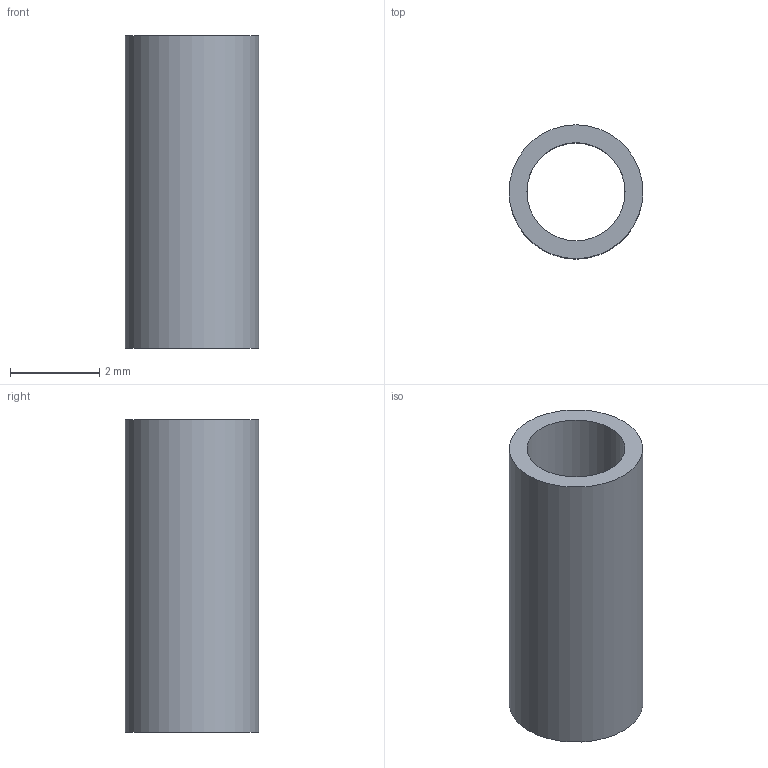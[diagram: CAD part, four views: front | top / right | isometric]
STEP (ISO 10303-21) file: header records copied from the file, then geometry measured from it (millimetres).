
FILE_DESCRIPTION(('Open CASCADE Model'),'2;1');
FILE_NAME('Open CASCADE Shape Model','2026-09-24T19:52:59',('Author'),( 'Open CASCADE'),'Open CASCADE STEP processor 7.8','Open CASCADE 7.8' ,'Unknown');
FILE_SCHEMA(('AUTOMOTIVE_DESIGN { 1 0 10303 214 1 1 1 1 }'));
Length unit declared in the file: millimetre
Products named in the file (1): Open CASCADE STEP translator 7.8 30
Bounding box: 3 x 3 x 7 mm (x, y, z)
Volume: 22.9 mm3; surface area: 120.9 mm2
Topology: 1 solids, 1 shells, 4 faces, 6 edges, 4 vertices
Faces by surface type: cylinder 2, plane 2
Full cylindrical faces by diameter (mm): 2.2 x1, 3 x1
Entity records: 186 total; most frequent: DIRECTION 32, CARTESIAN_POINT 27, ORIENTED_EDGE 12, PCURVE 12, DEFINITIONAL_REPRESENTATION 12, LINE 10, VECTOR 10, AXIS2_PLACEMENT_3D 9
